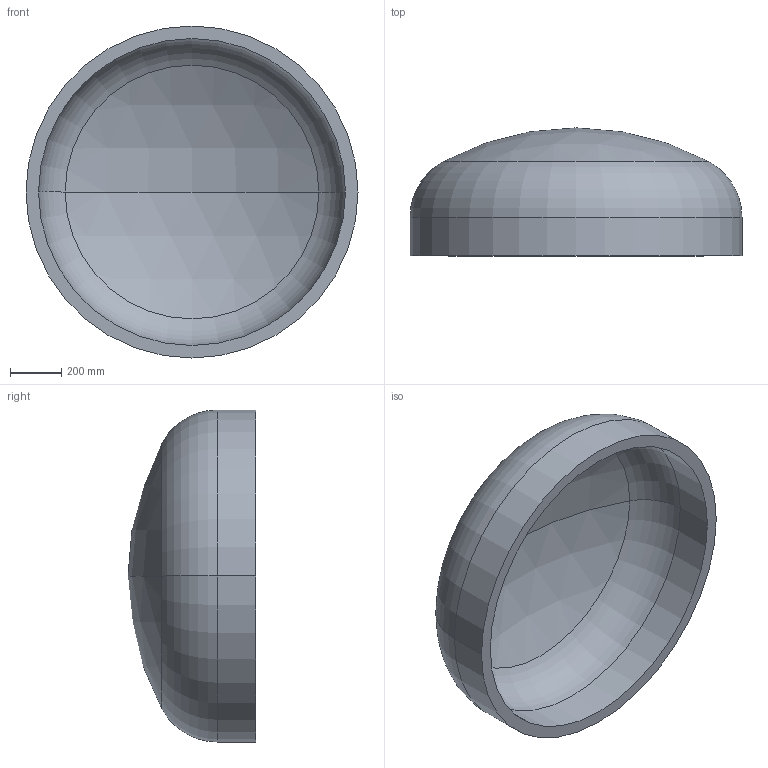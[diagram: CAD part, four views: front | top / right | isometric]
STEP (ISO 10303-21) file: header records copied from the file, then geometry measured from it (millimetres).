
FILE_DESCRIPTION (( 'STEP AP203' ), '1' );
FILE_NAME ('DIN 28013 Korbbogenform_-_Boden DIN 28013 - 1300 x 150 - I - s=49.step', '2016-07-01T09:54:12', ( '' ), ( '' ), 'SwSTEP 2.0', 'SolidWorks 2013', '' );
FILE_SCHEMA (( 'CONFIG_CONTROL_DESIGN' ));
Length unit declared in the file: millimetre
Products named in the file (1): DIN 28013 Korbbogenform_-_Boden DIN 28013 - 1300 x 150 - I - s=49
Bounding box: 1300 x 500.89 x 1300 mm (x, y, z)
Volume: 114645470 mm3; surface area: 4877010.9 mm2
Topology: 1 solids, 1 shells, 13 faces, 24 edges, 14 vertices
Faces by surface type: torus 4, cylinder 4, sphere 4, plane 1
Entity records: 407 total; most frequent: DIRECTION 72, CARTESIAN_POINT 52, ORIENTED_EDGE 48, AXIS2_PLACEMENT_3D 34, EDGE_CURVE 24, CIRCLE 20, VERTEX_POINT 14, EDGE_LOOP 14
